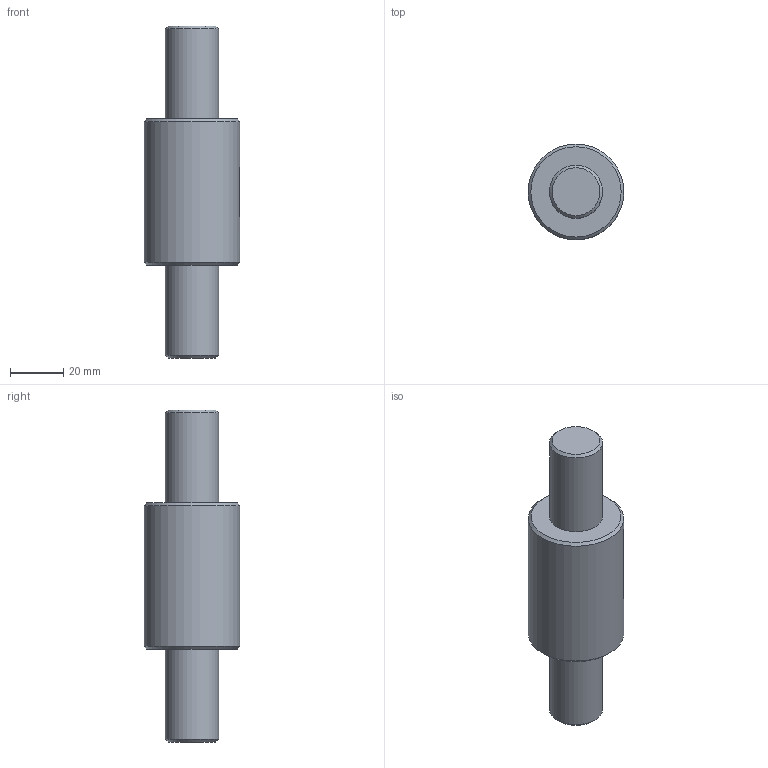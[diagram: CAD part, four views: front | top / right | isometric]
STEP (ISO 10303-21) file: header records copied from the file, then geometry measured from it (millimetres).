
FILE_DESCRIPTION(/* description */ (''),/* implementation_level */ '2;1');
FILE_NAME(/* name */ 'SCNH2010.stp',/* time_stamp */ '2016-11-22T16:18:21+08:00',/* author */ (''),/* organization */ (''),/* preprocessor_version */ 'ST-DEVELOPER v11',/* originating_system */ 'SIEMENS UGS NX 6.0',/* authorisation */ '');
FILE_SCHEMA (('CONFIG_CONTROL_DESIGN'));
Length unit declared in the file: millimetre
Products named in the file (1): fann1AB30owp
Bounding box: 36 x 36 x 125 mm (x, y, z)
Volume: 77467.4 mm3; surface area: 19546 mm2
Topology: 2 solids, 2 shells, 18 faces, 39 edges, 24 vertices
Faces by surface type: cone 6, cylinder 5, plane 5, extrusion 2
Full cylindrical faces by diameter (mm): 20 x2, 36 x1
Entity records: 739 total; most frequent: CARTESIAN_POINT 301, DIRECTION 72, ORIENTED_EDGE 56, EDGE_LOOP 30, AXIS2_PLACEMENT_3D 30, EDGE_CURVE 28, VERTEX_POINT 22, FACE_BOUND 21
